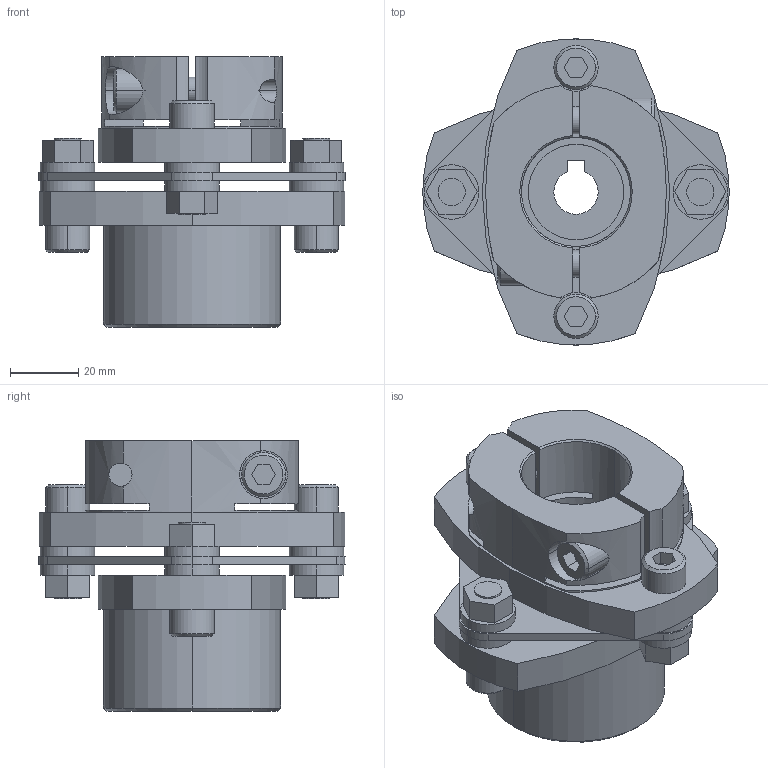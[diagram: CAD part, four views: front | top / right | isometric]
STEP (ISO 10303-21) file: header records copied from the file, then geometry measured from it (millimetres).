
FILE_DESCRIPTION((''),'2;1');
FILE_NAME('LCS-90M-16L亊32B.stp','2011-08-20T16:36:30',(''),(''),'AutoCAD STEP 2000i','AutoCAD 2000i',', , ');
FILE_SCHEMA(('CONFIG_CONTROL_DESIGN'));
Length unit declared in the file: millimetre
Products named in the file (7): LCS-90M-16L×28B; 忣兜1; LC90-B028; LC90M-L016; LC90-B019-1; LC90-B019; LCS90-ITA
Assembly tree (6 placements, depth 2):
  LCS-90M-16L×28B
    忣兜1
    LC90-B028
    LC90M-L016
    LC90-B019-1
    LC90-B019
    LCS90-ITA
Bounding box: 90 x 89.94 x 79.5 mm (x, y, z)
Volume: 186194.6 mm3; surface area: 49811.1 mm2
Topology: 1 solids, 1 shells, 234 faces, 588 edges, 386 vertices
Faces by surface type: plane 115, cylinder 96, cone 23
Entity records: 7519 total; most frequent: CARTESIAN_POINT 1523, DIRECTION 1274, ORIENTED_EDGE 1176, EDGE_CURVE 588, AXIS2_PLACEMENT_3D 467, VERTEX_POINT 386, VECTOR 340, LINE 340
